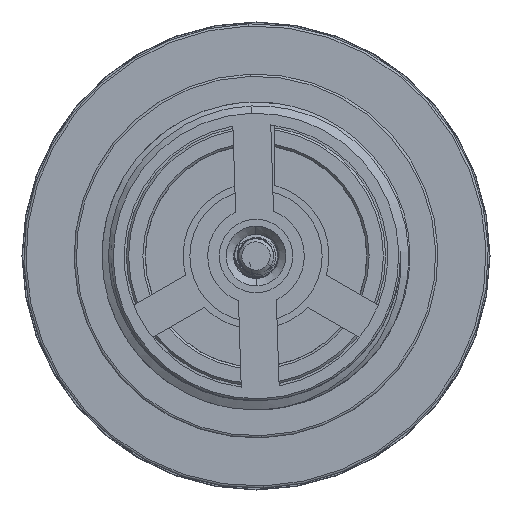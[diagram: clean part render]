
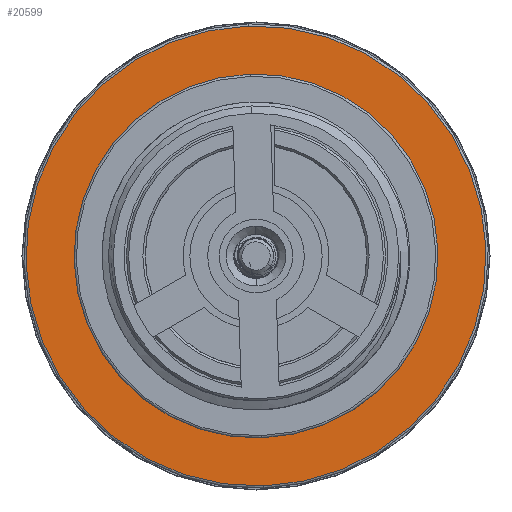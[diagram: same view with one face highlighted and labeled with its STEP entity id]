
A CAD part, front view. The second image highlights one B-rep face of the part: STEP entity #20599.
In plain terms, the highlighted planar face has unit normal (0, -1, 0).
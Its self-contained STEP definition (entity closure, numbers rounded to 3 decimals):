
#164 = ORIENTED_EDGE ( 'NONE', *, *, #17684, .T. ) ;
#915 = PLANE ( 'NONE',  #5407 ) ;
#1139 = DIRECTION ( 'NONE',  ( 0.032, 0., -0.999 ) ) ;
#1273 = DIRECTION ( 'NONE',  ( 0.032, 0., -0.999 ) ) ;
#1551 = EDGE_CURVE ( 'NONE', #26810, #32910, #21768, .T. ) ;
#2060 = DIRECTION ( 'NONE',  ( 0., -1., 0. ) ) ;
#3066 = FACE_OUTER_BOUND ( 'NONE', #25805, .T. ) ;
#4484 = ORIENTED_EDGE ( 'NONE', *, *, #1551, .T. ) ;
#4584 = DIRECTION ( 'NONE',  ( 0., -1., 0. ) ) ;
#4795 = DIRECTION ( 'NONE',  ( 0.032, 0., -0.999 ) ) ;
#5168 = DIRECTION ( 'NONE',  ( 0., -1., 0. ) ) ;
#5407 = AXIS2_PLACEMENT_3D ( 'NONE', #22027, #4584, #1139 ) ;
#8575 = VERTEX_POINT ( 'NONE', #37568 ) ;
#10888 = ORIENTED_EDGE ( 'NONE', *, *, #16478, .F. ) ;
#11675 = VERTEX_POINT ( 'NONE', #36546 ) ;
#13157 = DIRECTION ( 'NONE',  ( 0., -1., 0. ) ) ;
#13806 = AXIS2_PLACEMENT_3D ( 'NONE', #20477, #13157, #24156 ) ;
#16478 = EDGE_CURVE ( 'NONE', #11675, #8575, #43083, .T. ) ;
#17684 = EDGE_CURVE ( 'NONE', #32910, #26810, #18354, .T. ) ;
#18354 = CIRCLE ( 'NONE', #23520, 30.975 ) ;
#19488 = CARTESIAN_POINT ( 'NONE',  ( 0., -39.043, 0. ) ) ;
#20477 = CARTESIAN_POINT ( 'NONE',  ( 0., -39.043, 0. ) ) ;
#20599 = ADVANCED_FACE ( 'NONE', ( #32675, #3066 ), #915, .T. ) ;
#21011 = AXIS2_PLACEMENT_3D ( 'NONE', #40578, #23049, #1273 ) ;
#21768 = CIRCLE ( 'NONE', #32094, 30.975 ) ;
#22027 = CARTESIAN_POINT ( 'NONE',  ( 24.487, -39.043, 0.785 ) ) ;
#22376 = CARTESIAN_POINT ( 'NONE',  ( 0., -39.043, 0. ) ) ;
#23049 = DIRECTION ( 'NONE',  ( 0., -1., 0. ) ) ;
#23520 = AXIS2_PLACEMENT_3D ( 'NONE', #22376, #5168, #29742 ) ;
#24156 = DIRECTION ( 'NONE',  ( 0.032, 0., -0.999 ) ) ;
#25385 = ORIENTED_EDGE ( 'NONE', *, *, #45001, .F. ) ;
#25805 = EDGE_LOOP ( 'NONE', ( #4484, #164 ) ) ;
#26810 = VERTEX_POINT ( 'NONE', #42581 ) ;
#27641 = CIRCLE ( 'NONE', #13806, 24.5 ) ;
#29742 = DIRECTION ( 'NONE',  ( 0.032, 0., -0.999 ) ) ;
#30726 = EDGE_LOOP ( 'NONE', ( #10888, #25385 ) ) ;
#32094 = AXIS2_PLACEMENT_3D ( 'NONE', #19488, #2060, #4795 ) ;
#32675 = FACE_BOUND ( 'NONE', #30726, .T. ) ;
#32910 = VERTEX_POINT ( 'NONE', #35425 ) ;
#35425 = CARTESIAN_POINT ( 'NONE',  ( -0.993, -39.043, 30.959 ) ) ;
#36546 = CARTESIAN_POINT ( 'NONE',  ( 0.785, -39.043, -24.487 ) ) ;
#37568 = CARTESIAN_POINT ( 'NONE',  ( -0.785, -39.043, 24.487 ) ) ;
#40578 = CARTESIAN_POINT ( 'NONE',  ( 0., -39.043, 0. ) ) ;
#42581 = CARTESIAN_POINT ( 'NONE',  ( 0.993, -39.043, -30.959 ) ) ;
#43083 = CIRCLE ( 'NONE', #21011, 24.5 ) ;
#45001 = EDGE_CURVE ( 'NONE', #8575, #11675, #27641, .T. ) ;
